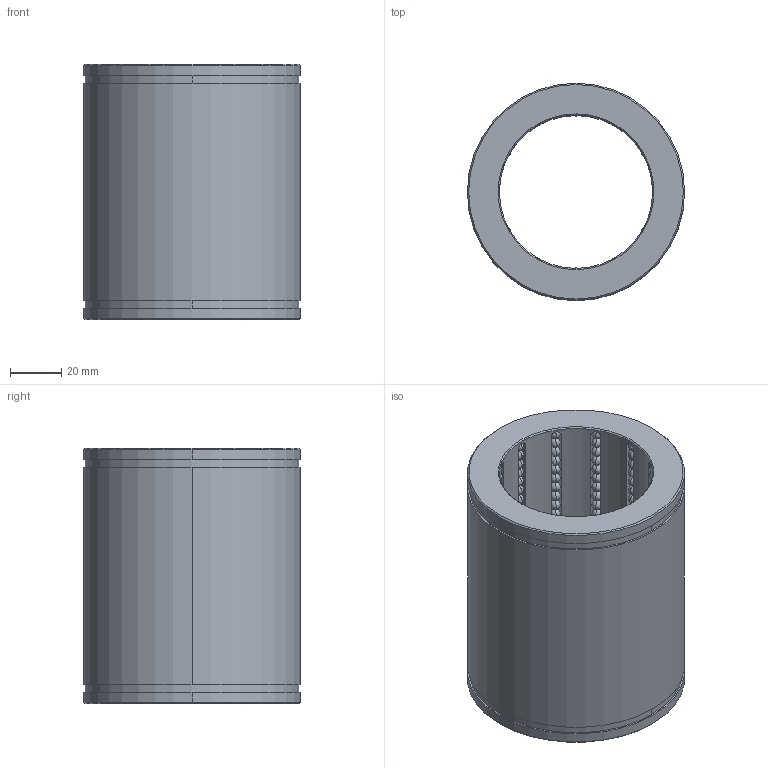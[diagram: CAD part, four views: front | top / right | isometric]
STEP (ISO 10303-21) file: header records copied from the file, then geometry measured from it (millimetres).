
FILE_DESCRIPTION((''),'2;1');
FILE_NAME('B80360100','2018-01-06T',('MANU'),(''),'PRO/ENGINEER BY PARAMETRIC TECHNOLOGY CORPORATION, 2012130','PRO/ENGINEER BY PARAMETRIC TECHNOLOGY CORPORATION, 2012130','');
FILE_SCHEMA(('CONFIG_CONTROL_DESIGN'));
Length unit declared in the file: millimetre
Products named in the file (1): B80360100
Bounding box: 85 x 85 x 100 mm (x, y, z)
Volume: 274951.7 mm3; surface area: 74825.1 mm2
Topology: 277 solids, 277 shells, 638 faces, 1858 edges, 684 vertices
Faces by surface type: sphere 552, plane 42, cylinder 36, cone 8
Entity records: 13428 total; most frequent: DIRECTION 2610, CARTESIAN_POINT 2572, ORIENTED_EDGE 1508, AXIS2_PLACEMENT_3D 1246, EDGE_CURVE 754, VERTEX_POINT 684, EDGE_LOOP 654, FACE_OUTER_BOUND 638
